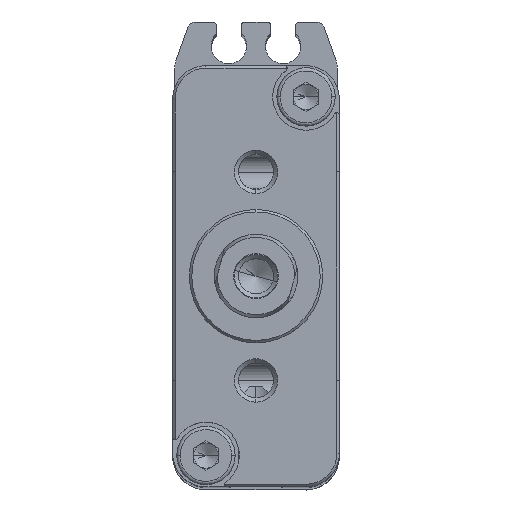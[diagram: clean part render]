
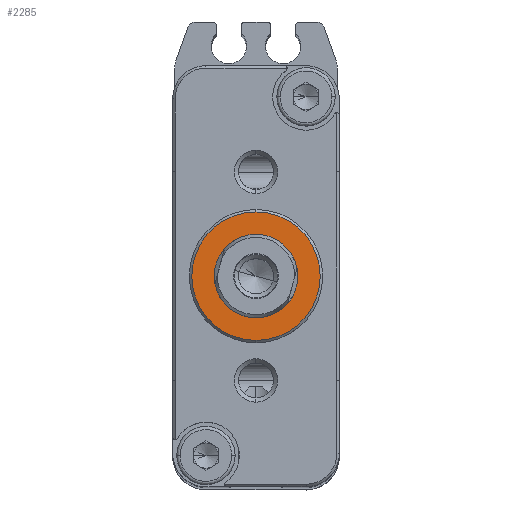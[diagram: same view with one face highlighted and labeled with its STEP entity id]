
A CAD part, top view. The second image highlights one B-rep face of the part: STEP entity #2285.
In plain terms, the highlighted planar face has unit normal (0, 0, 1).
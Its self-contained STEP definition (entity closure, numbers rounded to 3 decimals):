
#64 = DIRECTION ( 'NONE',  ( 0., 0., -1. ) ) ;
#2215 = EDGE_CURVE ( 'NONE', #19365, #19407, #24842, .T. ) ;
#2285 = ADVANCED_FACE ( 'NONE', ( #16079, #14457 ), #7892, .T. ) ;
#3589 = AXIS2_PLACEMENT_3D ( 'NONE', #13227, #9263, #5234 ) ;
#3658 = DIRECTION ( 'NONE',  ( 0., -1., 0. ) ) ;
#4316 = CARTESIAN_POINT ( 'NONE',  ( 0., 0., 2. ) ) ;
#4439 = CARTESIAN_POINT ( 'NONE',  ( 0., -7.7, 2. ) ) ;
#4593 = VERTEX_POINT ( 'NONE', #21024 ) ;
#5234 = DIRECTION ( 'NONE',  ( 0., -1., 0. ) ) ;
#7827 = DIRECTION ( 'NONE',  ( 0., 1., 0. ) ) ;
#7892 = PLANE ( 'NONE',  #13767 ) ;
#9263 = DIRECTION ( 'NONE',  ( 0., 0., 1. ) ) ;
#11401 = EDGE_CURVE ( 'NONE', #12477, #4593, #20078, .T. ) ;
#11667 = CARTESIAN_POINT ( 'NONE',  ( 0., 0., 2. ) ) ;
#11938 = DIRECTION ( 'NONE',  ( 0., 0., 1. ) ) ;
#12477 = VERTEX_POINT ( 'NONE', #4439 ) ;
#13227 = CARTESIAN_POINT ( 'NONE',  ( 0., 0., 2. ) ) ;
#13655 = CIRCLE ( 'NONE', #19488, 7.7 ) ;
#13767 = AXIS2_PLACEMENT_3D ( 'NONE', #11667, #11938, #3658 ) ;
#14197 = CARTESIAN_POINT ( 'NONE',  ( 0., 0., 2. ) ) ;
#14457 = FACE_OUTER_BOUND ( 'NONE', #20143, .T. ) ;
#14504 = ORIENTED_EDGE ( 'NONE', *, *, #11401, .F. ) ;
#16079 = FACE_BOUND ( 'NONE', #22919, .T. ) ;
#16835 = DIRECTION ( 'NONE',  ( 0., 1., 0. ) ) ;
#16972 = EDGE_CURVE ( 'NONE', #4593, #12477, #13655, .T. ) ;
#18661 = DIRECTION ( 'NONE',  ( 0., 0., -1. ) ) ;
#19365 = VERTEX_POINT ( 'NONE', #20266 ) ;
#19407 = VERTEX_POINT ( 'NONE', #22621 ) ;
#19488 = AXIS2_PLACEMENT_3D ( 'NONE', #20182, #64, #7827 ) ;
#20041 = CIRCLE ( 'NONE', #22776, 5. ) ;
#20078 = CIRCLE ( 'NONE', #20738, 7.7 ) ;
#20143 = EDGE_LOOP ( 'NONE', ( #21243, #14504 ) ) ;
#20182 = CARTESIAN_POINT ( 'NONE',  ( 0., 0., 2. ) ) ;
#20266 = CARTESIAN_POINT ( 'NONE',  ( 0., -5., 2. ) ) ;
#20738 = AXIS2_PLACEMENT_3D ( 'NONE', #4316, #18661, #16835 ) ;
#20887 = ORIENTED_EDGE ( 'NONE', *, *, #2215, .F. ) ;
#21024 = CARTESIAN_POINT ( 'NONE',  ( 0., 7.7, 2. ) ) ;
#21243 = ORIENTED_EDGE ( 'NONE', *, *, #16972, .F. ) ;
#22621 = CARTESIAN_POINT ( 'NONE',  ( 0., 5., 2. ) ) ;
#22712 = DIRECTION ( 'NONE',  ( 0., -1., 0. ) ) ;
#22776 = AXIS2_PLACEMENT_3D ( 'NONE', #14197, #24778, #22712 ) ;
#22919 = EDGE_LOOP ( 'NONE', ( #20887, #23772 ) ) ;
#23772 = ORIENTED_EDGE ( 'NONE', *, *, #24486, .F. ) ;
#24486 = EDGE_CURVE ( 'NONE', #19407, #19365, #20041, .T. ) ;
#24778 = DIRECTION ( 'NONE',  ( 0., 0., 1. ) ) ;
#24842 = CIRCLE ( 'NONE', #3589, 5. ) ;
